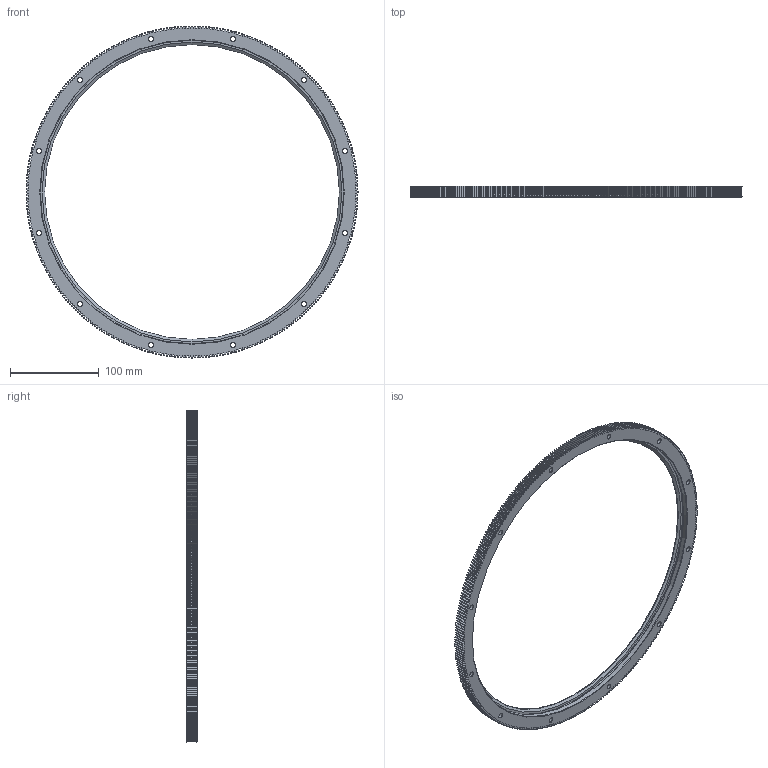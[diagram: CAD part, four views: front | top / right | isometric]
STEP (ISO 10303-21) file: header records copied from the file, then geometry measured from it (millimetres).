
FILE_DESCRIPTION( ( 'STEP AP203' ), '1' );
FILE_NAME( 'p:/temp/worker_66/temp/exporttempdir_4076_70_0356B/format_0/RIS 374 R360 P.stp', '2021-09-01T01:44:38', ( 'License CC BY-ND 4.0' ), ( 'CADENAS' ), ' ', 'PARTsolutions', ' ' );
FILE_SCHEMA( ( 'CONFIG_CONTROL_DESIGN' ) );
Length unit declared in the file: millimetre
Products named in the file (1): _RIS 374 R360 P
Bounding box: 374 x 12.25 x 374 mm (x, y, z)
Volume: 214781.1 mm3; surface area: 86414.7 mm2
Topology: 1 solids, 1 shells, 2290 faces, 6807 edges, 4533 vertices
Faces by surface type: plane 1504, cylinder 398, cone 387, torus 1
Full cylindrical faces by diameter (mm): 5.5 x12, 10 x12, 342 x1, 343.2 x1
Entity records: 76886 total; most frequent: CARTESIAN_POINT 15821, ORIENTED_EDGE 13530, DIRECTION 11788, EDGE_CURVE 6765, LINE 4836, VECTOR 4836, VERTEX_POINT 4533, AXIS2_PLACEMENT_3D 3476
